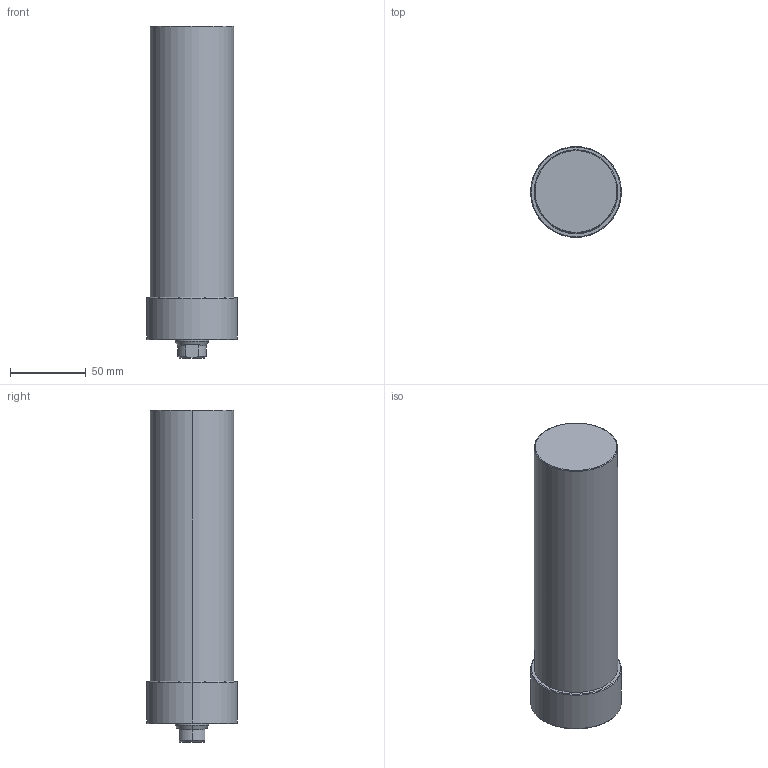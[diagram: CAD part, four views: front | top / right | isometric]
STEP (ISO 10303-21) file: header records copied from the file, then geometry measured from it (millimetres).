
FILE_DESCRIPTION (( 'STEP AP203' ), '1' );
FILE_NAME ('CLLU-055GA-150.STEP', '2020-01-06T07:11:48', ( '' ), ( '' ), 'SwSTEP 2.0', 'SolidWorks 2015', '' );
FILE_SCHEMA (( 'CONFIG_CONTROL_DESIGN' ));
Length unit declared in the file: millimetre
Products named in the file (1): CLLU-055GA-150
Bounding box: 60 x 60 x 219 mm (x, y, z)
Volume: 504774.5 mm3; surface area: 44251.6 mm2
Topology: 1 solids, 1 shells, 64 faces, 143 edges, 80 vertices
Faces by surface type: cone 25, cylinder 23, plane 10, torus 6
Entity records: 1805 total; most frequent: DIRECTION 330, CARTESIAN_POINT 318, ORIENTED_EDGE 266, AXIS2_PLACEMENT_3D 140, EDGE_CURVE 133, VERTEX_POINT 80, CIRCLE 75, EDGE_LOOP 73
